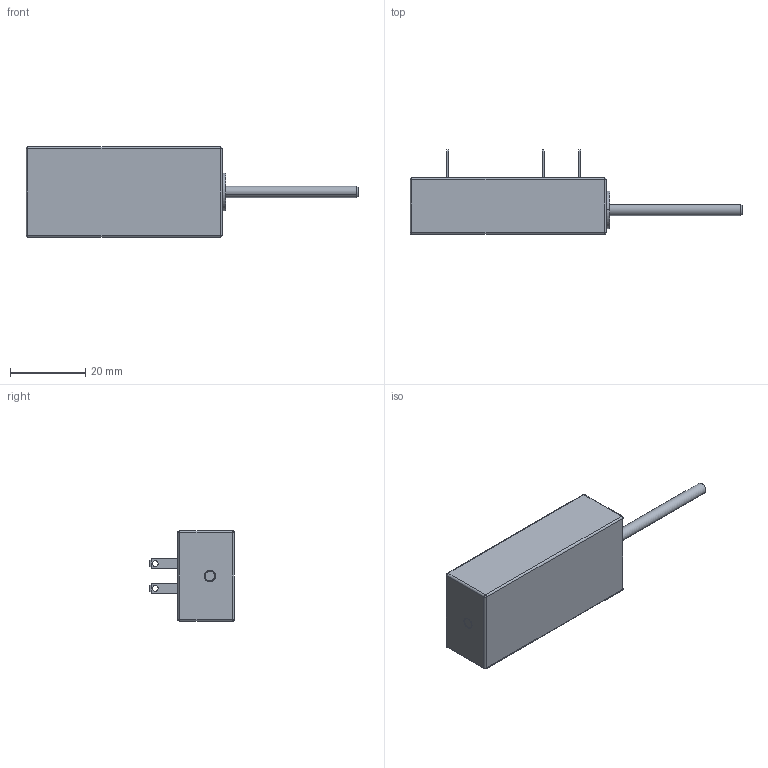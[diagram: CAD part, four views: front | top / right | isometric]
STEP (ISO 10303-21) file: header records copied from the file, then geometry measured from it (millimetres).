
FILE_DESCRIPTION (( 'STEP AP214' ), '1' );
FILE_NAME ('15FLP20A.STEP', '2017-02-03T04:11:54', ( '' ), ( '' ), 'SwSTEP 2.0', 'SolidWorks 2016', '' );
FILE_SCHEMA (( 'AUTOMOTIVE_DESIGN' ));
Length unit declared in the file: millimetre
Products named in the file (2): Part6^15FLP20A; 15FLP20A
Assembly tree (1 placements, depth 2):
  15FLP20A
    Part6^15FLP20A
Bounding box: 88.05 x 22.5 x 24 mm (x, y, z)
Volume: 13210.4 mm3; surface area: 9643.3 mm2
Topology: 2 solids, 6 shells, 3286 faces, 8740 edges, 4674 vertices
Faces by surface type: bspline 2880, plane 245, cylinder 117, cone 30, sphere 8, torus 6
Entity records: 283901 total; most frequent: CARTESIAN_POINT 233733, ORIENTED_EDGE 17456, EDGE_CURVE 8728, VERTEX_POINT 4674, EDGE_LOOP 4056, ADVANCED_FACE 3286, FACE_OUTER_BOUND 3286, DIRECTION 2521
